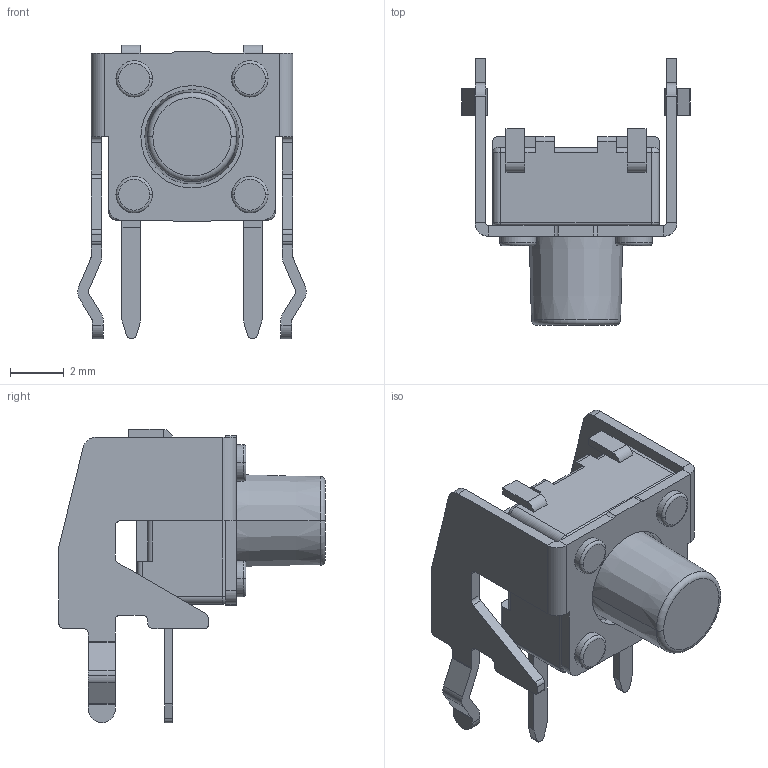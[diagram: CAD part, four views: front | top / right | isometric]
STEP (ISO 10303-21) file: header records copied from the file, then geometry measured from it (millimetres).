
FILE_DESCRIPTION (( 'STEP AP214' ), '1' );
FILE_NAME ('SKHHLW.STEP', '2009-12-11T04:31:13', ( '' ), ( '' ), 'SwSTEP 2.0', 'SolidWorks 2007', '' );
FILE_SCHEMA (( 'AUTOMOTIVE_DESIGN' ));
Length unit declared in the file: millimetre
Products named in the file (1): SKHHLW
Bounding box: 8.5 x 9.9 x 10.9 mm (x, y, z)
Volume: 191.8 mm3; surface area: 429.7 mm2
Topology: 1 solids, 5 shells, 285 faces, 740 edges, 474 vertices
Faces by surface type: plane 147, cylinder 118, torus 18, cone 2
Entity records: 11873 total; most frequent: DIRECTION 1580, CARTESIAN_POINT 1500, ORIENTED_EDGE 1480, EDGE_CURVE 740, AXIS2_PLACEMENT_3D 554, VERTEX_POINT 474, VECTOR 472, LINE 472
